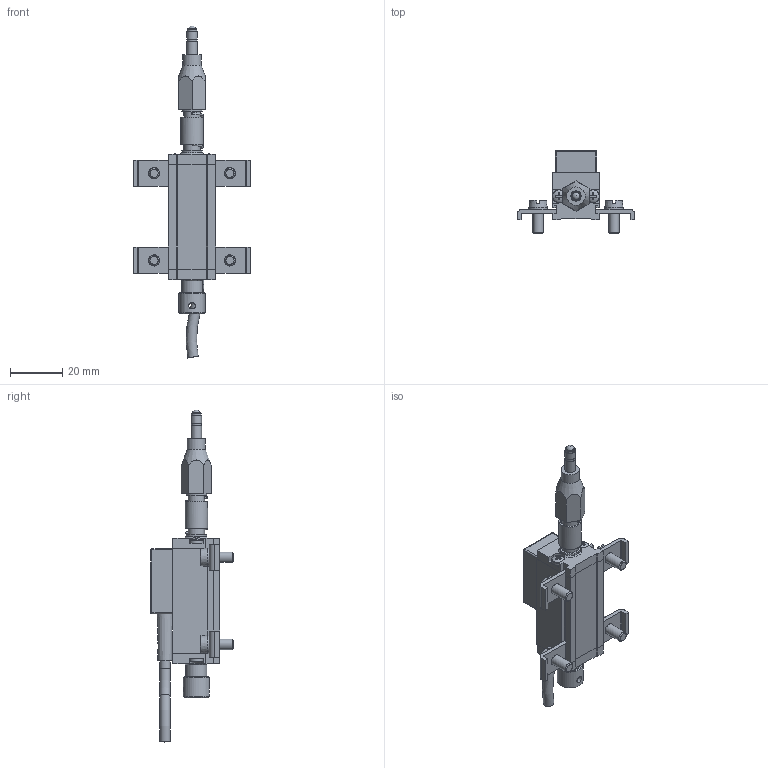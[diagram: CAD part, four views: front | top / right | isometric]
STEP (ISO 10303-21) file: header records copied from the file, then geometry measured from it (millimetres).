
FILE_DESCRIPTION(/* description */ ('STEP AP203'),/* implementation_level */ '2;1');
FILE_NAME(/* name */ 'PY2-F-010-S01M 0000x000X0N_(0)',/* time_stamp */ '2024-11-27T13:06:22+01:00',/* author */ ('License CC BY-ND 4.0'),/* organization */ ('CADENAS'),/* preprocessor_version */ 'ST-DEVELOPER v19.3',/* originating_system */ 'PARTsolutions',/* authorisation */ ' ');
FILE_SCHEMA (('CONFIG_CONTROL_DESIGN'));
Length unit declared in the file: millimetre
Products named in the file (9): PY2-F-010-S01M 0000x000X0N_(0); CUS_4510PY; 53PYN; 1100; 4510PY2; 15; CJ_1010; FPYN; PKIT_20
Assembly tree (12 placements, depth 2):
  PY2-F-010-S01M 0000x000X0N_(0)
    CUS_4510PY
    53PYN  x2
    1100
    4510PY2
    15
    CJ_1010
    FPYN
    PKIT_20  x4
Bounding box: 45 x 31.7 x 127 mm (x, y, z)
Volume: 24488.8 mm3; surface area: 14809.1 mm2
Topology: 12 solids, 12 shells, 368 faces, 880 edges, 565 vertices
Faces by surface type: plane 248, cylinder 69, cone 26, torus 16, sphere 9
Full cylindrical faces by diameter (mm): 0.6 x4, 2.5 x2, 3.2 x2, 3.3 x1, 3.8 x3, 4 x9, 4.3 x4, 5 x5, 5.1 x2, 6 x2, 6.3 x2, 7 x6, 7.4 x1, 7.8 x2, 8 x1, 8.5 x1, 8.6 x1, 10 x1
Entity records: 7145 total; most frequent: CARTESIAN_POINT 1223, DIRECTION 1056, ORIENTED_EDGE 902, EDGE_CURVE 451, AXIS2_PLACEMENT_3D 395, EDGE_LOOP 325, FACE_BOUND 325, VERTEX_POINT 322
